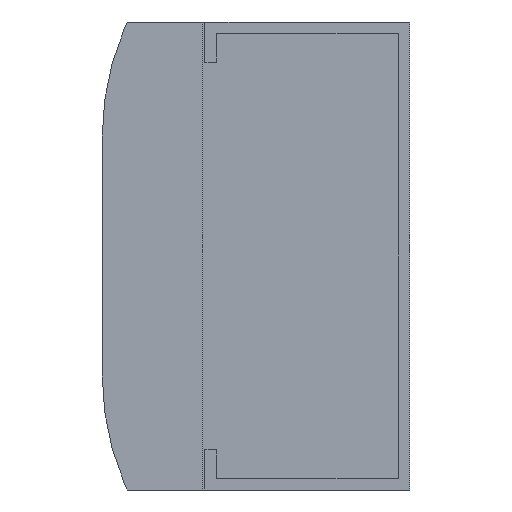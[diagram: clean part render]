
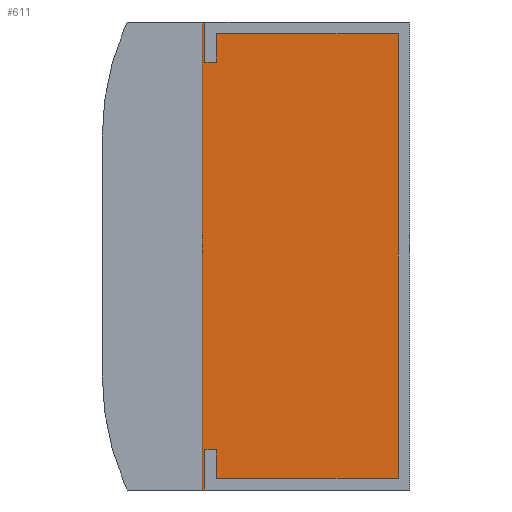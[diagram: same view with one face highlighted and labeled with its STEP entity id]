
A CAD part, left-side view. The second image highlights one B-rep face of the part: STEP entity #611.
In plain terms, the highlighted planar face has unit normal (-1, 0, 0).
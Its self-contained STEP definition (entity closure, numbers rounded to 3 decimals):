
#41 = VERTEX_POINT ( 'NONE', #826 ) ;
#66 = EDGE_CURVE ( 'NONE', #1666, #41, #1728, .T. ) ;
#195 = CARTESIAN_POINT ( 'NONE',  ( -16.3, -20.8, -46.7 ) ) ;
#303 = DIRECTION ( 'NONE',  ( 0., 1., 0. ) ) ;
#313 = LINE ( 'NONE', #1511, #1726 ) ;
#361 = ORIENTED_EDGE ( 'NONE', *, *, #945, .F. ) ;
#508 = ORIENTED_EDGE ( 'NONE', *, *, #66, .T. ) ;
#568 = EDGE_CURVE ( 'NONE', #1371, #1182, #1740, .T. ) ;
#590 = DIRECTION ( 'NONE',  ( 0., 0., 1. ) ) ;
#603 = EDGE_LOOP ( 'NONE', ( #361, #753, #1579, #508 ) ) ;
#611 = ADVANCED_FACE ( 'NONE', ( #739 ), #1765, .F. ) ;
#739 = FACE_OUTER_BOUND ( 'NONE', #603, .T. ) ;
#747 = EDGE_CURVE ( 'NONE', #1182, #1666, #313, .T. ) ;
#753 = ORIENTED_EDGE ( 'NONE', *, *, #568, .T. ) ;
#826 = CARTESIAN_POINT ( 'NONE',  ( -16.3, 18.3, -46.7 ) ) ;
#835 = CARTESIAN_POINT ( 'NONE',  ( -16.3, 18.3, 46.7 ) ) ;
#886 = DIRECTION ( 'NONE',  ( 1., 0., 0. ) ) ;
#898 = AXIS2_PLACEMENT_3D ( 'NONE', #1166, #886, #1330 ) ;
#945 = EDGE_CURVE ( 'NONE', #1371, #41, #1444, .T. ) ;
#1166 = CARTESIAN_POINT ( 'NONE',  ( -16.3, -23.1, -97.838 ) ) ;
#1182 = VERTEX_POINT ( 'NONE', #1616 ) ;
#1330 = DIRECTION ( 'NONE',  ( 0., 0., -1. ) ) ;
#1371 = VERTEX_POINT ( 'NONE', #195 ) ;
#1386 = VECTOR ( 'NONE', #1695, 1000. ) ;
#1434 = VECTOR ( 'NONE', #1455, 1000. ) ;
#1444 = LINE ( 'NONE', #1583, #1434 ) ;
#1455 = DIRECTION ( 'NONE',  ( 0., 1., 0. ) ) ;
#1511 = CARTESIAN_POINT ( 'NONE',  ( -16.3, -23.1, 46.7 ) ) ;
#1579 = ORIENTED_EDGE ( 'NONE', *, *, #747, .T. ) ;
#1583 = CARTESIAN_POINT ( 'NONE',  ( -16.3, -23.1, -46.7 ) ) ;
#1594 = CARTESIAN_POINT ( 'NONE',  ( -16.3, -20.8, 46.7 ) ) ;
#1614 = CARTESIAN_POINT ( 'NONE',  ( -16.3, 18.3, 46.7 ) ) ;
#1616 = CARTESIAN_POINT ( 'NONE',  ( -16.3, -20.8, 46.7 ) ) ;
#1666 = VERTEX_POINT ( 'NONE', #1614 ) ;
#1695 = DIRECTION ( 'NONE',  ( 0., 0., -1. ) ) ;
#1726 = VECTOR ( 'NONE', #303, 1000. ) ;
#1728 = LINE ( 'NONE', #835, #1386 ) ;
#1740 = LINE ( 'NONE', #1594, #1818 ) ;
#1765 = PLANE ( 'NONE',  #898 ) ;
#1818 = VECTOR ( 'NONE', #590, 1000. ) ;
